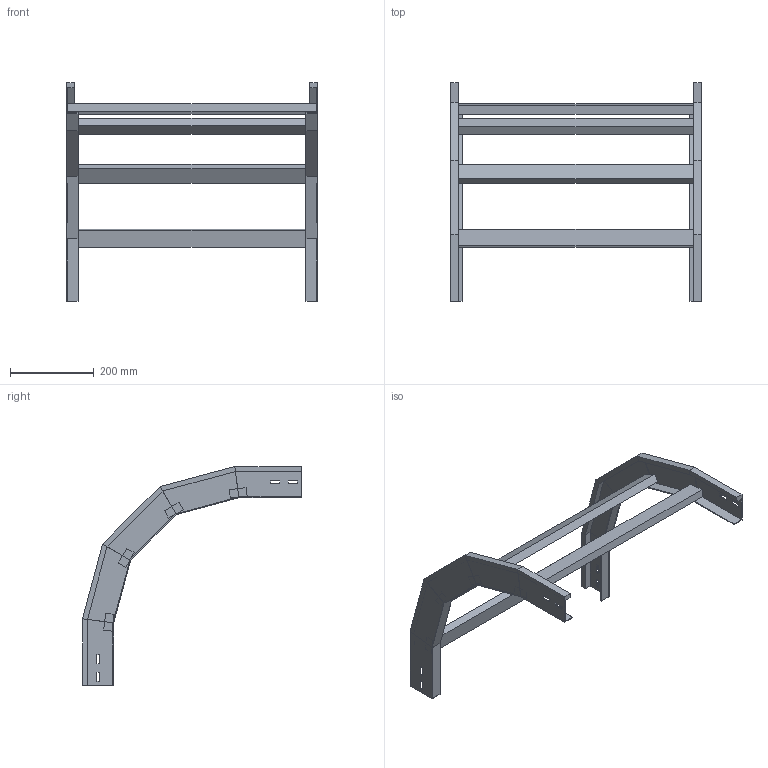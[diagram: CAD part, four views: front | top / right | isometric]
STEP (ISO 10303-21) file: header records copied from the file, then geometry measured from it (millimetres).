
FILE_DESCRIPTION (( 'STEP AP214' ), '1' );
FILE_NAME ('A2_33B3C600.step', '2025-02-21T15:05:38', ( '' ), ( '' ), 'SwSTEP 2.0', 'SolidWorks 2023', '' );
FILE_SCHEMA (( 'AUTOMOTIVE_DESIGN' ));
Length unit declared in the file: millimetre
Products named in the file (3): LONGH.DISCESA_90°_H75_R300; TRAVERSINO_600; A2_33B3C600
Assembly tree (6 placements, depth 2):
  A2_33B3C600
    LONGH.DISCESA_90°_H75_R300  x2
    TRAVERSINO_600  x4
Bounding box: 600 x 524.44 x 524.44 mm (x, y, z)
Volume: 2588829.3 mm3; surface area: 681736 mm2
Topology: 6 solids, 6 shells, 140 faces, 320 edges, 192 vertices
Faces by surface type: plane 140
Entity records: 1872 total; most frequent: CARTESIAN_POINT 309, ORIENTED_EDGE 296, DIRECTION 294, VECTOR 148, LINE 148, EDGE_CURVE 148, VERTEX_POINT 88, AXIS2_PLACEMENT_3D 73
